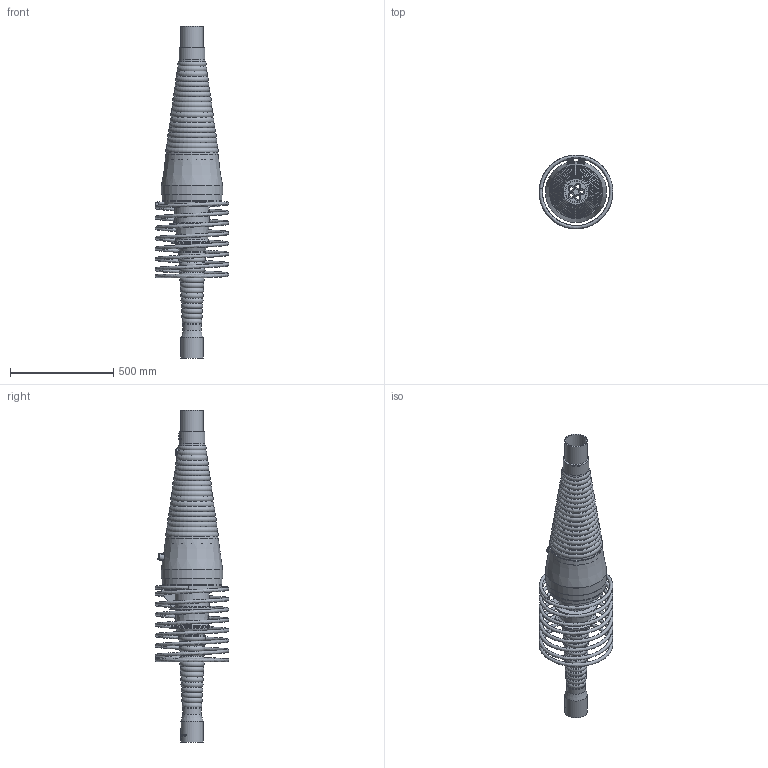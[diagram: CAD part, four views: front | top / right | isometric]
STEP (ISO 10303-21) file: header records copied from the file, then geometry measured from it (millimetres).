
FILE_DESCRIPTION(/* description */ (''),/* implementation_level */ '2;1');
FILE_NAME(/* name */ 'Z:\IDA\BBV\DE\410 Technik_Zulassungen-Verfahren\21 BBV - Hompage\Dateien für Vito Mediavilla\BBV LITZENSPANNVERFAHREN MIT VERBUND\FÜK - feste Übergreifungskopplung\Z-13.1-114.FÜK.015.00 FÜK L15i.stp',/* time_stamp */ '2023-08-21T16:12:05+02:00',/* author */ ('klukas'),/* organization */ (''),/* preprocessor_version */ 'ST-DEVELOPER v18.1',/* originating_system */ 'Autodesk Inventor 2021',/* authorisation */ '');
FILE_SCHEMA (('AUTOMOTIVE_DESIGN { 1 0 10303 214 3 1 1 }'));
Products named in the file (1): Z-13.1-114.FÜK.015.00 FÜK L15i
Bounding box: 355.96 x 355.97 x 1605.56 mm (x, y, z)
Volume: 11212911.3 mm3; surface area: 2681690.2 mm2
Topology: 20 solids, 20 shells, 905 faces, 2395 edges, 1576 vertices
Faces by surface type: plane 322, bspline 299, cylinder 120, cone 93, torus 71
Full cylindrical faces by diameter (mm): 19 x5, 28 x12, 32 x1, 33 x2, 36 x1, 39 x1, 82 x1, 89 x1, 100 x1, 101 x1, 107 x1, 108 x1, 117 x1, 125 x1, 130 x1, 137 x2, 139 x3, 150 x1, 155 x1, 196 x1, 200 x2, 203 x1, 216 x1, 258 x1, 290 x2, 293 x1, 296 x1
Entity records: 87474 total; most frequent: CARTESIAN_POINT 65718, ORIENTED_EDGE 4790, DIRECTION 3516, EDGE_CURVE 2395, VERTEX_POINT 1576, AXIS2_PLACEMENT_3D 1325, EDGE_LOOP 1007, STYLED_ITEM 925
